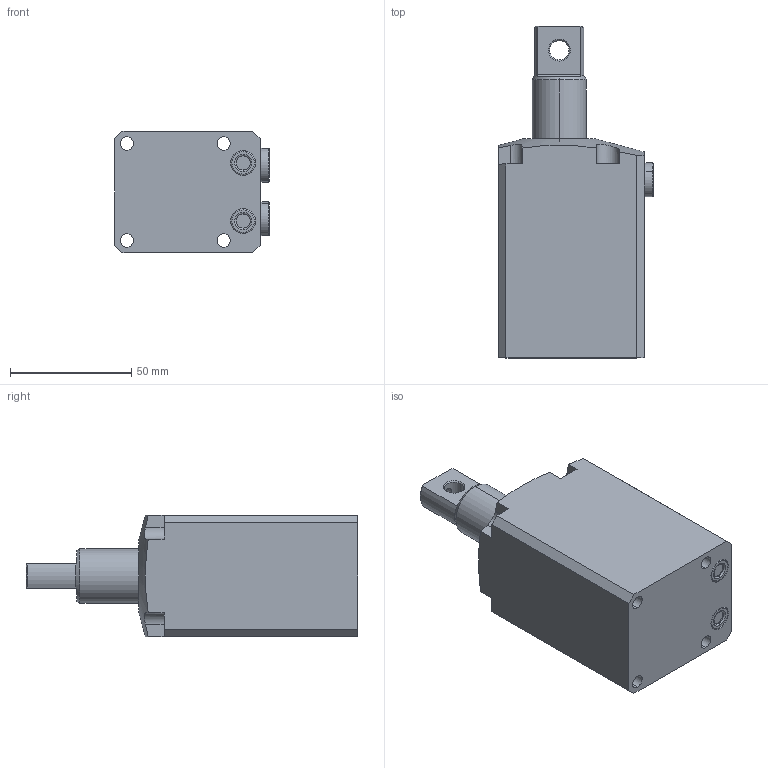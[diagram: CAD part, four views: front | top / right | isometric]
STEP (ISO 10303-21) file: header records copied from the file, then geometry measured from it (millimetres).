
FILE_DESCRIPTION(/* description */ (''),/* implementation_level */ '2;1');
FILE_NAME(/* name */ 'BRC04-P.stp',/* time_stamp */ '2025-01-05T08:57:11+08:00',/* author */ (''),/* organization */ (''),/* preprocessor_version */ 'ST-DEVELOPER v16.7',/* originating_system */ 'SIEMENS PLM Software NX 12.0',/* authorisation */ '');
FILE_SCHEMA (('AUTOMOTIVE_DESIGN { 1 0 10303 214 3 1 1 1 }'));
Length unit declared in the file: millimetre
Products named in the file (4): BRC04-P-03; BRC04-P-02; BRC04-P-01; BTU04-LP_step
Assembly tree (4 placements, depth 2):
  BTU04-LP_step
    BRC04-P-01
    BRC04-P-02
    BRC04-P-03  x2
Bounding box: 63.8 x 137 x 50 mm (x, y, z)
Volume: 259880 mm3; surface area: 37917.8 mm2
Topology: 6 solids, 6 shells, 148 faces, 341 edges, 214 vertices
Faces by surface type: plane 57, cylinder 51, torus 20, cone 20
Full cylindrical faces by diameter (mm): 8.5 x2
Entity records: 3915 total; most frequent: CARTESIAN_POINT 851, DIRECTION 649, ORIENTED_EDGE 586, EDGE_CURVE 293, AXIS2_PLACEMENT_3D 262, VERTEX_POINT 186, EDGE_LOOP 151, CIRCLE 131
